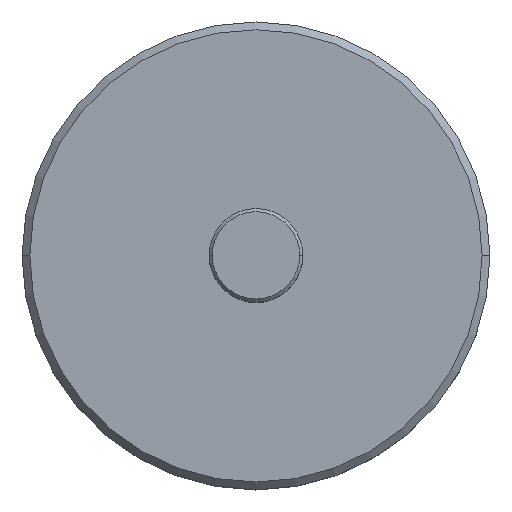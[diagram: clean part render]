
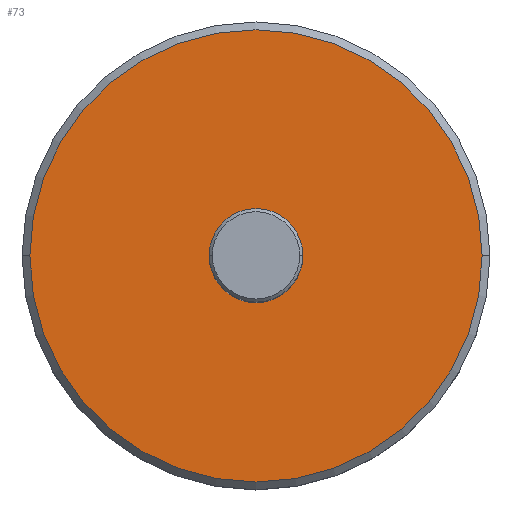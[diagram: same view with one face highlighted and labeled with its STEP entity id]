
A CAD part, top view. The second image highlights one B-rep face of the part: STEP entity #73.
In plain terms, the highlighted planar face has unit normal (0, 0, 1).
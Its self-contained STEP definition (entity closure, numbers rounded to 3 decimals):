
#35=AXIS2_PLACEMENT_3D('Plane Axis2P3D',#32,#33,#34) ;
#39=AXIS2_PLACEMENT_3D('Circle Axis2P3D',#37,#38,$) ;
#48=AXIS2_PLACEMENT_3D('Circle Axis2P3D',#46,#47,$) ;
#57=AXIS2_PLACEMENT_3D('Circle Axis2P3D',#55,#56,$) ;
#66=AXIS2_PLACEMENT_3D('Circle Axis2P3D',#64,#65,$) ;
#32=CARTESIAN_POINT('Axis2P3D Location',(0.,0.,7.)) ;
#37=CARTESIAN_POINT('Axis2P3D Location',(0.,0.,7.)) ;
#41=CARTESIAN_POINT('Vertex',(-14.5,0.,7.)) ;
#43=CARTESIAN_POINT('Vertex',(14.5,0.,7.)) ;
#46=CARTESIAN_POINT('Axis2P3D Location',(0.,0.,7.)) ;
#55=CARTESIAN_POINT('Axis2P3D Location',(0.,0.,7.)) ;
#59=CARTESIAN_POINT('Vertex',(3.,0.,7.)) ;
#61=CARTESIAN_POINT('Vertex',(-3.,0.,7.)) ;
#64=CARTESIAN_POINT('Axis2P3D Location',(0.,0.,7.)) ;
#33=DIRECTION('Axis2P3D Direction',(0.,0.,1.)) ;
#34=DIRECTION('Axis2P3D XDirection',(1.,0.,0.)) ;
#38=DIRECTION('Axis2P3D Direction',(0.,0.,1.)) ;
#47=DIRECTION('Axis2P3D Direction',(0.,0.,1.)) ;
#56=DIRECTION('Axis2P3D Direction',(0.,0.,1.)) ;
#65=DIRECTION('Axis2P3D Direction',(0.,0.,1.)) ;
#52=ORIENTED_EDGE('',*,*,#45,.T.) ;
#53=ORIENTED_EDGE('',*,*,#50,.T.) ;
#70=ORIENTED_EDGE('',*,*,#63,.F.) ;
#71=ORIENTED_EDGE('',*,*,#68,.F.) ;
#72=FACE_BOUND('',#69,.T.) ;
#73=ADVANCED_FACE('\X2\96F64EF651E04F554F53\X0\',(#54,#72),#36,.T.) ;
#40=CIRCLE('generated circle',#39,14.5) ;
#49=CIRCLE('generated circle',#48,14.5) ;
#58=CIRCLE('generated circle',#57,3.) ;
#67=CIRCLE('generated circle',#66,3.) ;
#45=EDGE_CURVE('',#42,#44,#40,.T.) ;
#50=EDGE_CURVE('',#44,#42,#49,.T.) ;
#63=EDGE_CURVE('',#60,#62,#58,.T.) ;
#68=EDGE_CURVE('',#62,#60,#67,.T.) ;
#51=EDGE_LOOP('',(#52,#53)) ;
#69=EDGE_LOOP('',(#70,#71)) ;
#54=FACE_OUTER_BOUND('',#51,.T.) ;
#36=PLANE('',#35) ;
#42=VERTEX_POINT('',#41) ;
#44=VERTEX_POINT('',#43) ;
#60=VERTEX_POINT('',#59) ;
#62=VERTEX_POINT('',#61) ;
